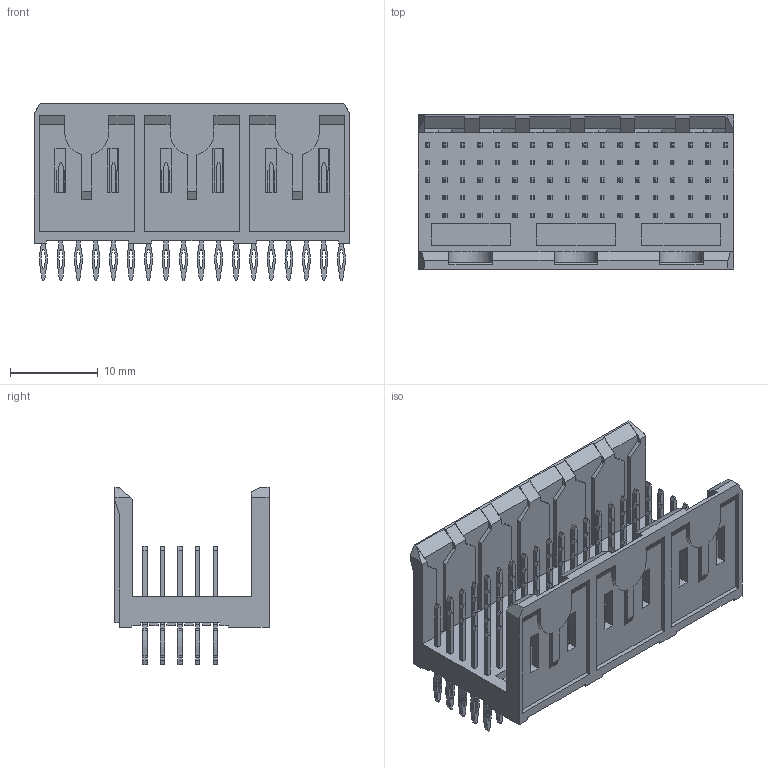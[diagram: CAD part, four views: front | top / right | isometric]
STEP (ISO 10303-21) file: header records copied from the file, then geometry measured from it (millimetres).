
FILE_DESCRIPTION (( 'STEP AP214' ), '1' );
FILE_NAME ('9111-5190BC10PU.STEP', '2020-12-15T11:21:23', ( '' ), ( '' ), 'SwSTEP 2.0', 'SolidWorks 2011', '' );
FILE_SCHEMA (( 'AUTOMOTIVE_DESIGN' ));
Length unit declared in the file: millimetre
Products named in the file (1): 9111-5190BC10PU
Bounding box: 35.95 x 17.6 x 20.3 mm (x, y, z)
Volume: 3378.8 mm3; surface area: 6250.4 mm2
Topology: 1 solids, 7 shells, 3320 faces, 9312 edges, 6204 vertices
Faces by surface type: plane 2051, cylinder 1269
Entity records: 139204 total; most frequent: CARTESIAN_POINT 18837, ORIENTED_EDGE 18624, DIRECTION 18492, EDGE_CURVE 9312, LINE 6774, VECTOR 6774, VERTEX_POINT 6204, AXIS2_PLACEMENT_3D 5859
